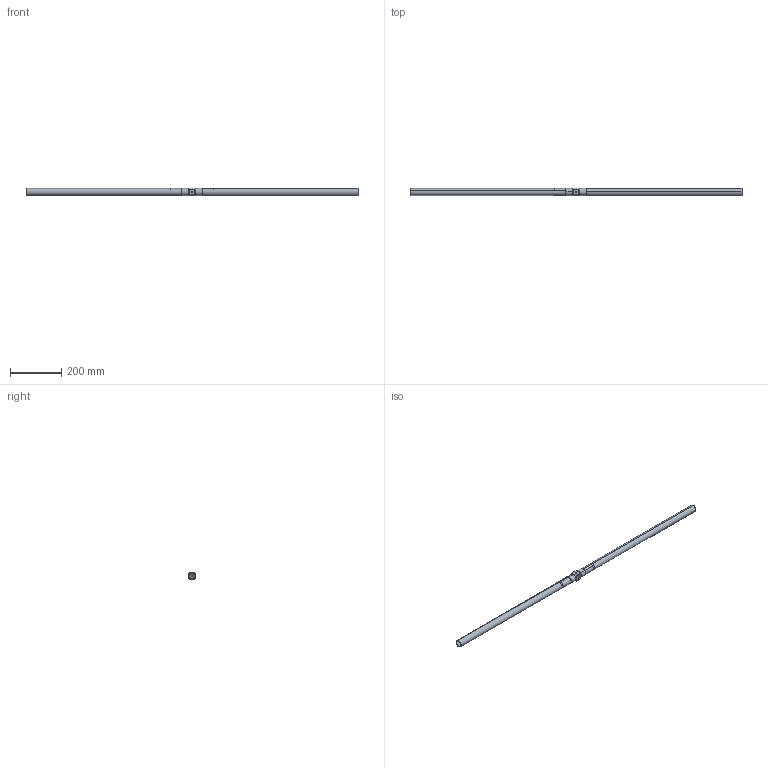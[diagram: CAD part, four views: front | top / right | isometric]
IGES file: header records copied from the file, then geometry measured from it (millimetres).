
Start section: SolidWorks IGES file using analytic representation for surfaces
Global section: file name: \\SERVER3\Design\_NEWDE~1\_DESIG~1\AAI\MODULA~1\SOLIDW~1\DEMONS~1\25DBF2~1.ASS\MODULA~1\235A3~1.COA\COAXIA~2\Threaded End Connector to Cube Connector to Threaded End Connector.IGS; native system: SolidWorks 2013; preprocessor: SolidWorks 2013; author: tbraun; date: 131002.124744; units: inch
Bounding box: 1298.58 x 28.57 x 28.57 mm (x, y, z)
Surface area: 233996.6 mm2 (no closed solid volume)
Topology: 0 solids, 0 shells, 278 faces, 4590 edges, 4586 vertices
Faces by surface type: revolution 184, bspline 94
